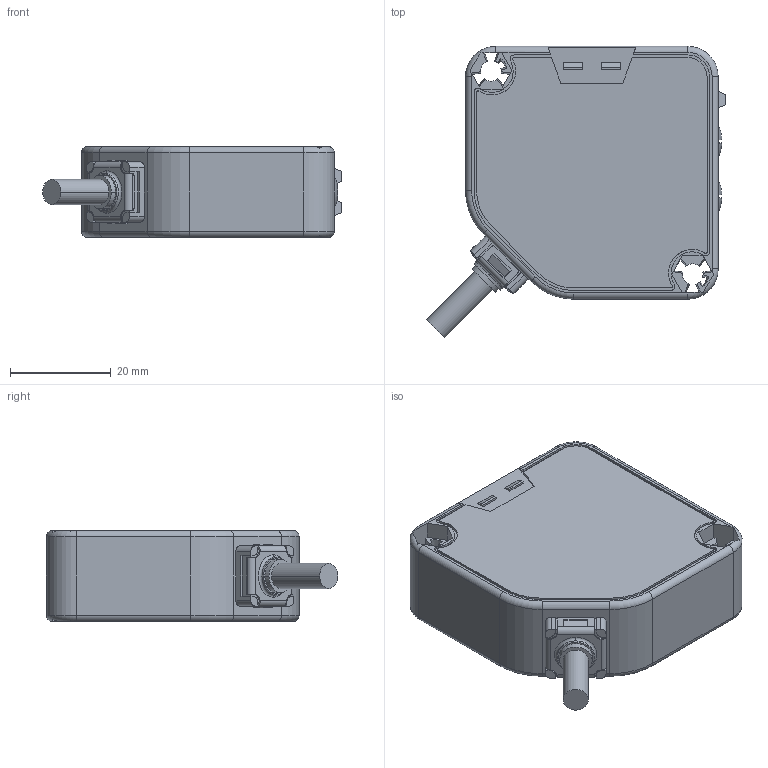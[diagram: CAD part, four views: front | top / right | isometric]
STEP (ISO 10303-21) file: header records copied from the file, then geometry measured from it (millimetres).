
FILE_DESCRIPTION((''),'2;1');
FILE_NAME('BN5M-MD_ASM','2018-08-08T09:29:37',('Administrator'),(''),'CREO PARAMETRIC BY PTC INC, 2016390','CREO PARAMETRIC BY PTC INC, 2016390','');
FILE_SCHEMA(('CONFIG_CONTROL_DESIGN'));
Length unit declared in the file: millimetre
Products named in the file (8): MANIFOLD_SOLID_BREP_2743; MANIFOLD_SOLID_BREP_25857; BN300LEDGLASS; BN300_; TOPCOVER_; WUJINKOU_; XINTAO; BN5M-MD_ASM
Assembly tree (9 placements, depth 2):
  BN5M-MD_ASM
    MANIFOLD_SOLID_BREP_2743
    MANIFOLD_SOLID_BREP_25857  x2
    BN300LEDGLASS  x2
    BN300_
    TOPCOVER_
    WUJINKOU_
    XINTAO
Bounding box: 59.19 x 57.73 x 18 mm (x, y, z)
Volume: 13309.7 mm3; surface area: 18172.5 mm2
Topology: 9 solids, 9 shells, 572 faces, 1597 edges, 1074 vertices
Faces by surface type: plane 376, cylinder 158, torus 18, cone 16, sphere 4
Entity records: 16498 total; most frequent: CARTESIAN_POINT 3170, ORIENTED_EDGE 2788, DIRECTION 2758, EDGE_CURVE 1394, VERTEX_POINT 939, AXIS2_PLACEMENT_3D 937, VECTOR 884, LINE 884
